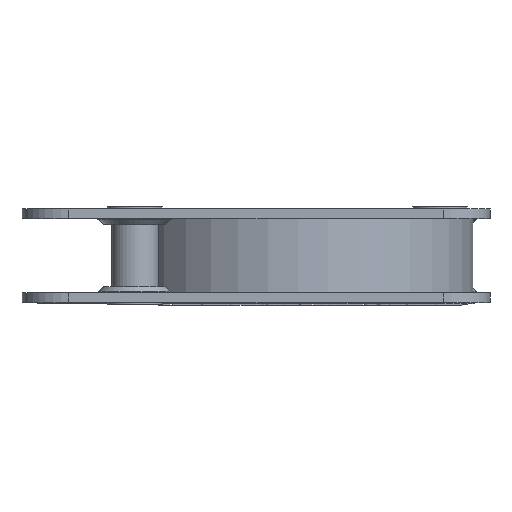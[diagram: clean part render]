
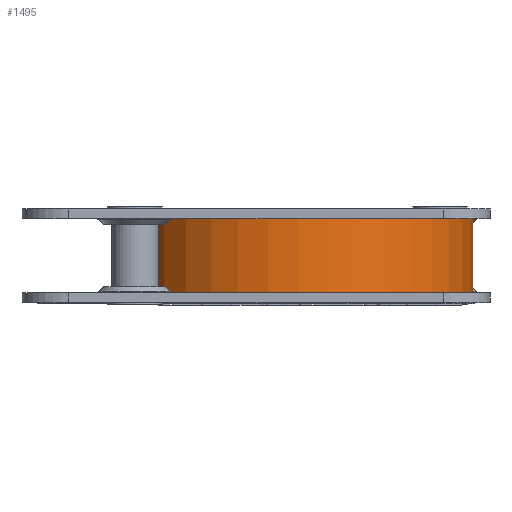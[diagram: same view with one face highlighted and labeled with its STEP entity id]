
A CAD part, front view. The second image highlights one B-rep face of the part: STEP entity #1495.
In plain terms, the highlighted cylindrical face has radius 35.56 mm (diameter 71.12 mm), a partial arc.
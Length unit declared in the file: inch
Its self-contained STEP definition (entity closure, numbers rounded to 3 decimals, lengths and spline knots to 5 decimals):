
#1286 = EDGE_LOOP ( 'NONE', ( #32629, #30419, #16104, #18488 ) ) ;
#1495 = ADVANCED_FACE ( 'NONE', ( #9161 ), #4008, .T. ) ;
#2784 = DIRECTION ( 'NONE',  ( 1., 0., 0. ) ) ;
#2798 = VERTEX_POINT ( 'NONE', #15910 ) ;
#3261 = AXIS2_PLACEMENT_3D ( 'NONE', #20104, #9930, #18406 ) ;
#4008 = CYLINDRICAL_SURFACE ( 'NONE', #3261, 1.4 ) ;
#4488 = CARTESIAN_POINT ( 'NONE',  ( -2.93769, 1.53769, 0.67 ) ) ;
#4553 = LINE ( 'NONE', #27794, #20476 ) ;
#5386 = EDGE_CURVE ( 'NONE', #2798, #10378, #4553, .T. ) ;
#5740 = VERTEX_POINT ( 'NONE', #23727 ) ;
#5751 = CARTESIAN_POINT ( 'NONE',  ( -0.13769, 1.53769, 0.08 ) ) ;
#5885 = CIRCLE ( 'NONE', #26591, 1.4 ) ;
#6781 = CARTESIAN_POINT ( 'NONE',  ( -2.93769, 1.53769, 0.67 ) ) ;
#7064 = DIRECTION ( 'NONE',  ( 0., 0., -1. ) ) ;
#7701 = CARTESIAN_POINT ( 'NONE',  ( -1.53769, 1.53769, 0.67 ) ) ;
#9161 = FACE_OUTER_BOUND ( 'NONE', #1286, .T. ) ;
#9930 = DIRECTION ( 'NONE',  ( 0., 0., -1. ) ) ;
#10378 = VERTEX_POINT ( 'NONE', #5751 ) ;
#12126 = DIRECTION ( 'NONE',  ( 0., 0., 1. ) ) ;
#15154 = EDGE_CURVE ( 'NONE', #22163, #5740, #18744, .T. ) ;
#15910 = CARTESIAN_POINT ( 'NONE',  ( -0.13769, 1.53769, 0.67 ) ) ;
#16104 = ORIENTED_EDGE ( 'NONE', *, *, #15154, .T. ) ;
#17379 = CARTESIAN_POINT ( 'NONE',  ( -1.53769, 1.53769, 0.08 ) ) ;
#18406 = DIRECTION ( 'NONE',  ( -1., 0., 0. ) ) ;
#18488 = ORIENTED_EDGE ( 'NONE', *, *, #27868, .T. ) ;
#18744 = LINE ( 'NONE', #6781, #20352 ) ;
#19934 = DIRECTION ( 'NONE',  ( 1., 0., 0. ) ) ;
#20104 = CARTESIAN_POINT ( 'NONE',  ( -1.53769, 1.53769, 0.67 ) ) ;
#20352 = VECTOR ( 'NONE', #27639, 39.37008 ) ;
#20476 = VECTOR ( 'NONE', #7064, 39.37008 ) ;
#20587 = DIRECTION ( 'NONE',  ( 0., 0., 1. ) ) ;
#22163 = VERTEX_POINT ( 'NONE', #4488 ) ;
#23544 = CIRCLE ( 'NONE', #26546, 1.4 ) ;
#23727 = CARTESIAN_POINT ( 'NONE',  ( -2.93769, 1.53769, 0.08 ) ) ;
#26546 = AXIS2_PLACEMENT_3D ( 'NONE', #17379, #12126, #19934 ) ;
#26591 = AXIS2_PLACEMENT_3D ( 'NONE', #7701, #20587, #2784 ) ;
#27639 = DIRECTION ( 'NONE',  ( 0., 0., -1. ) ) ;
#27794 = CARTESIAN_POINT ( 'NONE',  ( -0.13769, 1.53769, 0.67 ) ) ;
#27868 = EDGE_CURVE ( 'NONE', #5740, #10378, #23544, .T. ) ;
#30419 = ORIENTED_EDGE ( 'NONE', *, *, #31107, .F. ) ;
#31107 = EDGE_CURVE ( 'NONE', #22163, #2798, #5885, .T. ) ;
#32629 = ORIENTED_EDGE ( 'NONE', *, *, #5386, .F. ) ;
